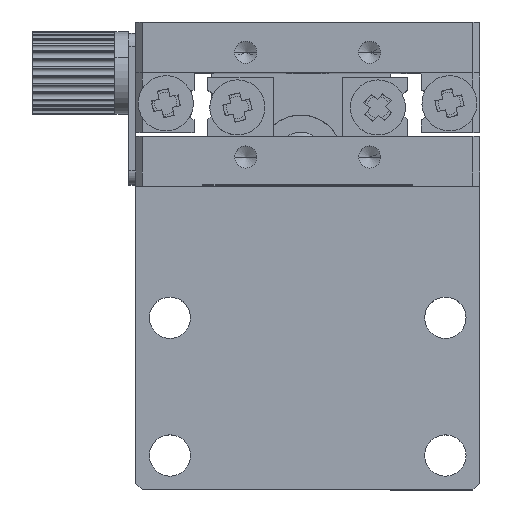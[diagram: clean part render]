
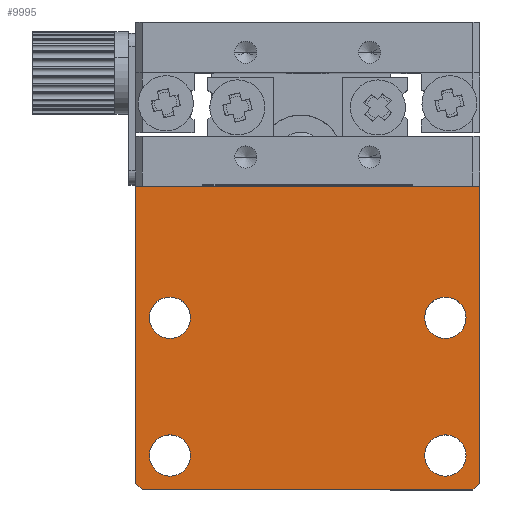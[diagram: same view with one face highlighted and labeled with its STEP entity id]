
A CAD part, top view. The second image highlights one B-rep face of the part: STEP entity #9995.
In plain terms, the highlighted planar face has unit normal (0, 0, 1) as drawn and (0, -1, 0) by its records, which use the part's own axes.
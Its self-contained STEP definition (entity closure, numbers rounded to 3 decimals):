
#158 = DIRECTION ( 'NONE',  ( 0., -1., 0. ) ) ;
#217 = CIRCLE ( 'NONE', #14118, 1.5 ) ;
#263 = AXIS2_PLACEMENT_3D ( 'NONE', #10534, #158, #2441 ) ;
#265 = CARTESIAN_POINT ( 'NONE',  ( -12.5, 0., -22. ) ) ;
#487 = CARTESIAN_POINT ( 'NONE',  ( -10., 0., -2.5 ) ) ;
#587 = CARTESIAN_POINT ( 'NONE',  ( 10., 0., -12.5 ) ) ;
#636 = VERTEX_POINT ( 'NONE', #10995 ) ;
#851 = DIRECTION ( 'NONE',  ( 0., -1., 0. ) ) ;
#1008 = CARTESIAN_POINT ( 'NONE',  ( -12.5, 0., -0.5 ) ) ;
#1261 = CARTESIAN_POINT ( 'NONE',  ( 12., 0., 0. ) ) ;
#1458 = EDGE_CURVE ( 'NONE', #10016, #7985, #11204, .T. ) ;
#1630 = EDGE_CURVE ( 'NONE', #2319, #3881, #9194, .T. ) ;
#1647 = ORIENTED_EDGE ( 'NONE', *, *, #12381, .F. ) ;
#1711 = DIRECTION ( 'NONE',  ( 0., -1., 0. ) ) ;
#2006 = FACE_OUTER_BOUND ( 'NONE', #9475, .T. ) ;
#2290 = VERTEX_POINT ( 'NONE', #10847 ) ;
#2319 = VERTEX_POINT ( 'NONE', #8532 ) ;
#2356 = ORIENTED_EDGE ( 'NONE', *, *, #4115, .T. ) ;
#2439 = ORIENTED_EDGE ( 'NONE', *, *, #6516, .F. ) ;
#2441 = DIRECTION ( 'NONE',  ( 0., 0., -1. ) ) ;
#2565 = CARTESIAN_POINT ( 'NONE',  ( -10., 0., -14. ) ) ;
#2716 = DIRECTION ( 'NONE',  ( 0., 0., -1. ) ) ;
#2767 = CARTESIAN_POINT ( 'NONE',  ( 12.5, 0., -22. ) ) ;
#3211 = ORIENTED_EDGE ( 'NONE', *, *, #9739, .T. ) ;
#3501 = ORIENTED_EDGE ( 'NONE', *, *, #9279, .F. ) ;
#3825 = VERTEX_POINT ( 'NONE', #14824 ) ;
#3847 = DIRECTION ( 'NONE',  ( 0., -1., 0. ) ) ;
#3848 = CIRCLE ( 'NONE', #12186, 1.5 ) ;
#3881 = VERTEX_POINT ( 'NONE', #2565 ) ;
#3917 = AXIS2_PLACEMENT_3D ( 'NONE', #587, #5363, #5262 ) ;
#3946 = EDGE_CURVE ( 'NONE', #5843, #4209, #14692, .T. ) ;
#3998 = CARTESIAN_POINT ( 'NONE',  ( 10., 0., -2.5 ) ) ;
#4067 = VERTEX_POINT ( 'NONE', #1008 ) ;
#4115 = EDGE_CURVE ( 'NONE', #11137, #4067, #9288, .T. ) ;
#4127 = DIRECTION ( 'NONE',  ( 0., -1., 0. ) ) ;
#4174 = DIRECTION ( 'NONE',  ( 0., -1., 0. ) ) ;
#4193 = AXIS2_PLACEMENT_3D ( 'NONE', #3998, #1711, #12045 ) ;
#4209 = VERTEX_POINT ( 'NONE', #1261 ) ;
#4406 = LINE ( 'NONE', #6870, #13214 ) ;
#4529 = LINE ( 'NONE', #13769, #7612 ) ;
#4530 = FACE_BOUND ( 'NONE', #14852, .T. ) ;
#4553 = CIRCLE ( 'NONE', #263, 1.5 ) ;
#4603 = VECTOR ( 'NONE', #13167, 1000. ) ;
#4660 = ORIENTED_EDGE ( 'NONE', *, *, #3946, .T. ) ;
#4938 = CARTESIAN_POINT ( 'NONE',  ( -10., 0., -4. ) ) ;
#5197 = CARTESIAN_POINT ( 'NONE',  ( -12., 0., 0. ) ) ;
#5262 = DIRECTION ( 'NONE',  ( 0., 0., -1. ) ) ;
#5335 = VECTOR ( 'NONE', #8588, 1000. ) ;
#5363 = DIRECTION ( 'NONE',  ( 0., -1., 0. ) ) ;
#5439 = CARTESIAN_POINT ( 'NONE',  ( -12.5, 0., -22. ) ) ;
#5612 = FACE_BOUND ( 'NONE', #9336, .T. ) ;
#5739 = EDGE_CURVE ( 'NONE', #2290, #636, #4553, .T. ) ;
#5830 = DIRECTION ( 'NONE',  ( -0.707, 0., -0.707 ) ) ;
#5843 = VERTEX_POINT ( 'NONE', #7410 ) ;
#6249 = EDGE_CURVE ( 'NONE', #3825, #9966, #217, .T. ) ;
#6320 = CARTESIAN_POINT ( 'NONE',  ( -10., 0., -12.5 ) ) ;
#6516 = EDGE_CURVE ( 'NONE', #11137, #4209, #4529, .T. ) ;
#6571 = ORIENTED_EDGE ( 'NONE', *, *, #6249, .F. ) ;
#6679 = AXIS2_PLACEMENT_3D ( 'NONE', #7440, #4127, #13778 ) ;
#6708 = ORIENTED_EDGE ( 'NONE', *, *, #8553, .F. ) ;
#6737 = DIRECTION ( 'NONE',  ( 0., 0., -1. ) ) ;
#6856 = AXIS2_PLACEMENT_3D ( 'NONE', #10377, #13804, #8037 ) ;
#6870 = CARTESIAN_POINT ( 'NONE',  ( -12.5, 0., -22. ) ) ;
#7235 = FACE_BOUND ( 'NONE', #12828, .T. ) ;
#7248 = CARTESIAN_POINT ( 'NONE',  ( -12.5, 0., -22. ) ) ;
#7410 = CARTESIAN_POINT ( 'NONE',  ( 12.5, 0., -0.5 ) ) ;
#7440 = CARTESIAN_POINT ( 'NONE',  ( -10., 0., -12.5 ) ) ;
#7612 = VECTOR ( 'NONE', #10195, 1000. ) ;
#7687 = LINE ( 'NONE', #2767, #4603 ) ;
#7985 = VERTEX_POINT ( 'NONE', #12788 ) ;
#8008 = DIRECTION ( 'NONE',  ( 0., 0., 1. ) ) ;
#8037 = DIRECTION ( 'NONE',  ( 0., 0., -1. ) ) ;
#8337 = EDGE_CURVE ( 'NONE', #10888, #5843, #7687, .T. ) ;
#8427 = DIRECTION ( 'NONE',  ( 0., 0., -1. ) ) ;
#8532 = CARTESIAN_POINT ( 'NONE',  ( -10., 0., -11. ) ) ;
#8553 = EDGE_CURVE ( 'NONE', #14251, #4067, #4406, .T. ) ;
#8588 = DIRECTION ( 'NONE',  ( -0.707, 0., 0.707 ) ) ;
#8984 = DIRECTION ( 'NONE',  ( 1., 0., 0. ) ) ;
#9050 = FACE_BOUND ( 'NONE', #13641, .T. ) ;
#9129 = ORIENTED_EDGE ( 'NONE', *, *, #1458, .F. ) ;
#9194 = CIRCLE ( 'NONE', #6679, 1.5 ) ;
#9279 = EDGE_CURVE ( 'NONE', #7985, #10016, #9413, .T. ) ;
#9288 = LINE ( 'NONE', #11493, #9477 ) ;
#9336 = EDGE_LOOP ( 'NONE', ( #1647, #11661 ) ) ;
#9398 = VECTOR ( 'NONE', #8984, 1000. ) ;
#9413 = CIRCLE ( 'NONE', #6856, 1.5 ) ;
#9475 = EDGE_LOOP ( 'NONE', ( #10654, #4660, #2439, #2356, #6708, #3211 ) ) ;
#9477 = VECTOR ( 'NONE', #5830, 1000. ) ;
#9697 = EDGE_CURVE ( 'NONE', #9966, #3825, #3848, .T. ) ;
#9739 = EDGE_CURVE ( 'NONE', #14251, #10888, #11231, .T. ) ;
#9966 = VERTEX_POINT ( 'NONE', #4938 ) ;
#9995 = ADVANCED_FACE ( 'NONE', ( #5612, #7235, #4530, #9050, #2006 ), #12994, .T. ) ;
#10016 = VERTEX_POINT ( 'NONE', #11743 ) ;
#10148 = EDGE_CURVE ( 'NONE', #636, #2290, #12629, .T. ) ;
#10195 = DIRECTION ( 'NONE',  ( 1., 0., 0. ) ) ;
#10377 = CARTESIAN_POINT ( 'NONE',  ( 10., 0., -12.5 ) ) ;
#10534 = CARTESIAN_POINT ( 'NONE',  ( 10., 0., -2.5 ) ) ;
#10654 = ORIENTED_EDGE ( 'NONE', *, *, #8337, .T. ) ;
#10825 = DIRECTION ( 'NONE',  ( 0., -1., 0. ) ) ;
#10847 = CARTESIAN_POINT ( 'NONE',  ( 10., 0., -4. ) ) ;
#10870 = DIRECTION ( 'NONE',  ( 0., 0., -1. ) ) ;
#10888 = VERTEX_POINT ( 'NONE', #12749 ) ;
#10995 = CARTESIAN_POINT ( 'NONE',  ( 10., 0., -1. ) ) ;
#11018 = CARTESIAN_POINT ( 'NONE',  ( 10.75, 0., 1.25 ) ) ;
#11137 = VERTEX_POINT ( 'NONE', #5197 ) ;
#11204 = CIRCLE ( 'NONE', #3917, 1.5 ) ;
#11231 = LINE ( 'NONE', #5439, #9398 ) ;
#11493 = CARTESIAN_POINT ( 'NONE',  ( -23.25, 0., -11.25 ) ) ;
#11661 = ORIENTED_EDGE ( 'NONE', *, *, #1630, .F. ) ;
#11743 = CARTESIAN_POINT ( 'NONE',  ( 10., 0., -14. ) ) ;
#12045 = DIRECTION ( 'NONE',  ( 0., 0., -1. ) ) ;
#12128 = AXIS2_PLACEMENT_3D ( 'NONE', #6320, #4174, #10870 ) ;
#12186 = AXIS2_PLACEMENT_3D ( 'NONE', #14796, #851, #6737 ) ;
#12381 = EDGE_CURVE ( 'NONE', #3881, #2319, #14762, .T. ) ;
#12629 = CIRCLE ( 'NONE', #4193, 1.5 ) ;
#12749 = CARTESIAN_POINT ( 'NONE',  ( 12.5, 0., -22. ) ) ;
#12788 = CARTESIAN_POINT ( 'NONE',  ( 10., 0., -11. ) ) ;
#12794 = ORIENTED_EDGE ( 'NONE', *, *, #5739, .F. ) ;
#12828 = EDGE_LOOP ( 'NONE', ( #14522, #6571 ) ) ;
#12994 = PLANE ( 'NONE',  #14010 ) ;
#13157 = ORIENTED_EDGE ( 'NONE', *, *, #10148, .F. ) ;
#13167 = DIRECTION ( 'NONE',  ( 0., 0., 1. ) ) ;
#13214 = VECTOR ( 'NONE', #8008, 1000. ) ;
#13641 = EDGE_LOOP ( 'NONE', ( #9129, #3501 ) ) ;
#13769 = CARTESIAN_POINT ( 'NONE',  ( -12.5, 0., 0. ) ) ;
#13778 = DIRECTION ( 'NONE',  ( 0., 0., -1. ) ) ;
#13804 = DIRECTION ( 'NONE',  ( 0., -1., 0. ) ) ;
#14010 = AXIS2_PLACEMENT_3D ( 'NONE', #7248, #3847, #8427 ) ;
#14118 = AXIS2_PLACEMENT_3D ( 'NONE', #487, #10825, #2716 ) ;
#14251 = VERTEX_POINT ( 'NONE', #265 ) ;
#14522 = ORIENTED_EDGE ( 'NONE', *, *, #9697, .F. ) ;
#14692 = LINE ( 'NONE', #11018, #5335 ) ;
#14762 = CIRCLE ( 'NONE', #12128, 1.5 ) ;
#14796 = CARTESIAN_POINT ( 'NONE',  ( -10., 0., -2.5 ) ) ;
#14824 = CARTESIAN_POINT ( 'NONE',  ( -10., 0., -1. ) ) ;
#14852 = EDGE_LOOP ( 'NONE', ( #12794, #13157 ) ) ;
